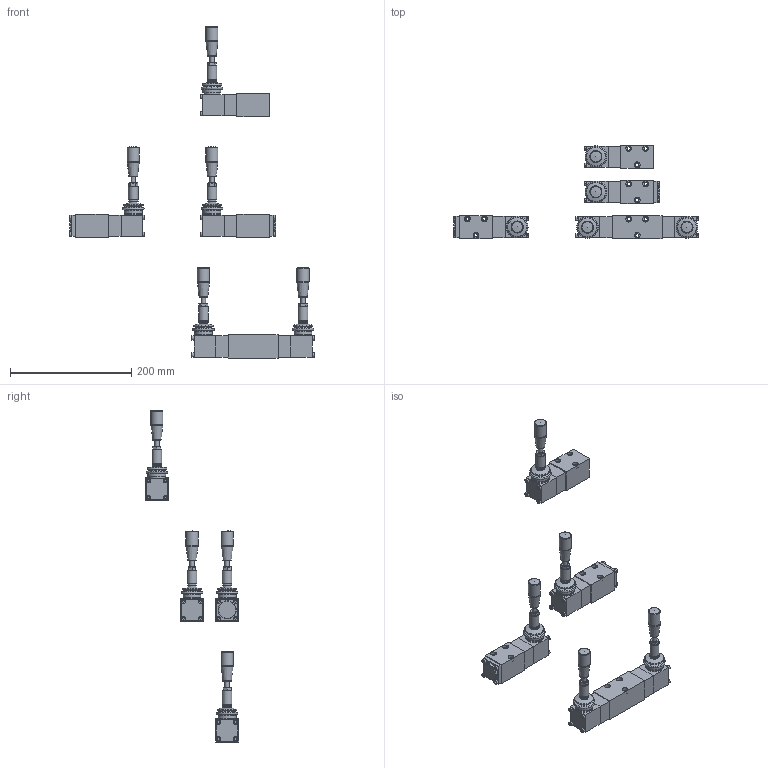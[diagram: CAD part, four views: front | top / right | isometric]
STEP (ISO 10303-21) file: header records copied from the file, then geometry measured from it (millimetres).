
FILE_DESCRIPTION(('Bauteilbeschreibung','HiCAD-Model','HiCAD-STEP-TRANSLATION','Bauteilbeschreibung'),'2;1');
FILE_NAME('C:/_EIGENE_DATEN/DXF_STEP/BH_04_4208.STP','2008-10-14T10:05:26+00:00',('Konstrukteur'),('Konstrukteur Firma GmbH'),' HiCAD neXt 2007, Step 3.1.1212.3C ','HiCAD neXt 2007','confidential');
FILE_SCHEMA(('AUTOMOTIVE_DESIGN { 1 2 10303 214 0 1 1 1 }'));
Length unit declared in the file: millimetre
Products named in the file (77): BH_04_4208; BH22041A; AA963F03; FLANSCH_NG4 MINI; A09A0EAE; A6B68E08; A6B68E080; FALTENBA; GRIFF; IN6KTM4; IN6KTM40; IN6KTM41; IN6KTM42; IN6KTM43; BH32041A; A83903FC; AFABB89C; A09A0EAE0; A6B68E081; A6B68E082; FALTENBA0; GRIFF0; IN6KTM44; IN6KTM45; IN6KTM46; IN6KTM47; IN6KTM48; AA75327F; AA75327F0; IN6KTM49; IN6KTM410; IN6KTM411; IN6KTM412; IN6KTM413; BH_2040B; A83DE2F7; AFABB89C0; A09A0EAE1; A6B68E083; A6B68E084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
Assembly tree (76 placements, depth 6):
  BH_04_4208
    BH22041A
      AA963F03
        FLANSCH_NG4 MINI
        A09A0EAE
        A6B68E08
        A6B68E080
          FALTENBA
          GRIFF
        IN6KTM4
          IN6KTM40
          IN6KTM41
          IN6KTM42
          IN6KTM43
    BH32041A
      A83903FC
        AFABB89C
        A09A0EAE0
        A6B68E081
        A6B68E082
          FALTENBA0
          GRIFF0
        IN6KTM44
          IN6KTM45
          IN6KTM46
          IN6KTM47
          IN6KTM48
        AA75327F
        AA75327F0
          IN6KTM49
            IN6KTM410
            IN6KTM411
            IN6KTM412
            IN6KTM413
    BH_2040B
      A83DE2F7
        AFABB89C0
        A09A0EAE1
        A6B68E083
        A6B68E084
          FALTENBA1
          GRIFF1
        IN6KTM414
          IN6KTM415
          IN6KTM416
          IN6KTM417
          IN6KTM418
        AA75327F1
        AA75327F2
          IN6KTM419
            IN6KTM420
            IN6KTM421
            IN6KTM422
            IN6KTM423
    BH3404
      E9822706
        A107837C
        A09A0EAE2
        A6B68E085
        A6B68E086
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Bounding box: 404.6 x 154 x 548.41 mm (x, y, z)
Volume: 854888 mm3; surface area: 199197.4 mm2
Topology: 54 solids, 54 shells, 757 faces, 1621 edges, 1092 vertices
Faces by surface type: plane 490, cylinder 195, cone 42, torus 25, sphere 5
Full cylindrical faces by diameter (mm): 4 x28, 4.5 x48, 5.5 x12, 7 x28, 7.12 x5, 8.5 x20, 9.5 x12, 14 x5, 14.5 x5, 16 x10, 20 x5, 27.5 x5, 29.5 x10, 30 x2
Entity records: 23757 total; most frequent: CARTESIAN_POINT 6968, DIRECTION 3448, ORIENTED_EDGE 2476, AXIS2_PLACEMENT_3D 1361, EDGE_LOOP 1264, EDGE_CURVE 1238, VERTEX_POINT 981, ADVANCED_FACE 757
